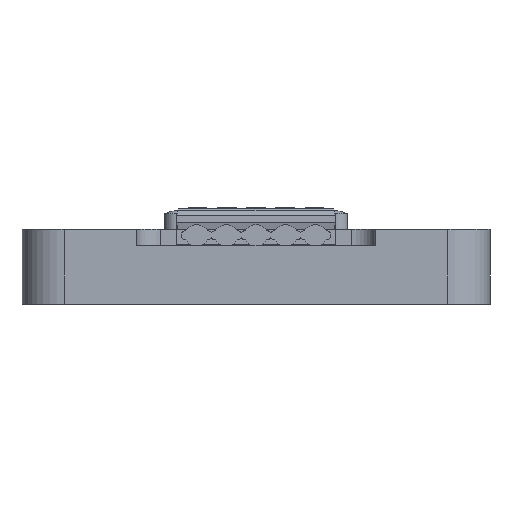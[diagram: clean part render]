
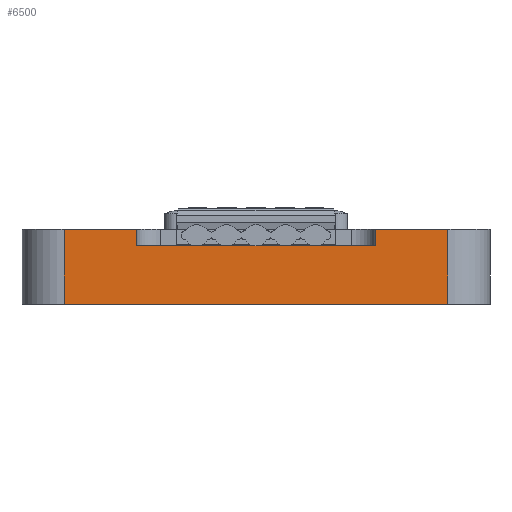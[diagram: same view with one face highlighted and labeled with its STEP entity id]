
A CAD part, front view. The second image highlights one B-rep face of the part: STEP entity #6500.
In plain terms, the highlighted planar face has unit normal (0, -1, 0) as drawn and (0, 0, 1) by its records, which use the part's own axes.
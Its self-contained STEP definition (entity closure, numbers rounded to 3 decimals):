
#2 = LINE ( 'NONE', #14894, #8336 ) ;
#54 = ORIENTED_EDGE ( 'NONE', *, *, #14577, .T. ) ;
#107 = EDGE_CURVE ( 'NONE', #11147, #3979, #9076, .T. ) ;
#176 = CARTESIAN_POINT ( 'NONE',  ( -8.2, 3.2, 10. ) ) ;
#637 = EDGE_CURVE ( 'NONE', #13129, #4361, #12235, .T. ) ;
#1287 = CARTESIAN_POINT ( 'NONE',  ( -5.1, 3.2, 10. ) ) ;
#1497 = DIRECTION ( 'NONE',  ( -1., 0., 0. ) ) ;
#1690 = CARTESIAN_POINT ( 'NONE',  ( -8.2, 0., 10. ) ) ;
#1975 = EDGE_CURVE ( 'NONE', #10636, #7824, #12589, .T. ) ;
#2287 = ORIENTED_EDGE ( 'NONE', *, *, #7016, .T. ) ;
#2341 = CARTESIAN_POINT ( 'NONE',  ( -10., 0., 10. ) ) ;
#2495 = DIRECTION ( 'NONE',  ( 1., 0., 0. ) ) ;
#2517 = DIRECTION ( 'NONE',  ( 0., 1., 0. ) ) ;
#3336 = VECTOR ( 'NONE', #6659, 1000. ) ;
#3337 = VECTOR ( 'NONE', #10662, 1000. ) ;
#3976 = ORIENTED_EDGE ( 'NONE', *, *, #4019, .F. ) ;
#3979 = VERTEX_POINT ( 'NONE', #1287 ) ;
#4019 = EDGE_CURVE ( 'NONE', #15739, #10636, #10272, .T. ) ;
#4361 = VERTEX_POINT ( 'NONE', #14646 ) ;
#4822 = CARTESIAN_POINT ( 'NONE',  ( -5.1, 2.5, 10. ) ) ;
#4942 = CARTESIAN_POINT ( 'NONE',  ( 5.1, 2.5, 10. ) ) ;
#5033 = LINE ( 'NONE', #14389, #8404 ) ;
#5159 = CARTESIAN_POINT ( 'NONE',  ( -10., 3.2, 10. ) ) ;
#5426 = DIRECTION ( 'NONE',  ( 0., 1., 0. ) ) ;
#5688 = LINE ( 'NONE', #13020, #3336 ) ;
#5697 = CARTESIAN_POINT ( 'NONE',  ( 8.2, 3.2, 10. ) ) ;
#5775 = DIRECTION ( 'NONE',  ( 1., 0., 0. ) ) ;
#6126 = CARTESIAN_POINT ( 'NONE',  ( -10., 3.2, 10. ) ) ;
#6414 = VERTEX_POINT ( 'NONE', #4822 ) ;
#6500 = ADVANCED_FACE ( 'NONE', ( #13889 ), #10357, .F. ) ;
#6659 = DIRECTION ( 'NONE',  ( 0., 1., 0. ) ) ;
#6696 = DIRECTION ( 'NONE',  ( 0., 0., -1. ) ) ;
#7012 = CARTESIAN_POINT ( 'NONE',  ( -8.2, 3.2, 10. ) ) ;
#7016 = EDGE_CURVE ( 'NONE', #11147, #13129, #14446, .T. ) ;
#7824 = VERTEX_POINT ( 'NONE', #5697 ) ;
#8336 = VECTOR ( 'NONE', #5775, 1000. ) ;
#8367 = EDGE_CURVE ( 'NONE', #6414, #3979, #5033, .T. ) ;
#8404 = VECTOR ( 'NONE', #5426, 1000. ) ;
#9058 = DIRECTION ( 'NONE',  ( 1., 0., 0. ) ) ;
#9076 = LINE ( 'NONE', #6126, #16224 ) ;
#9864 = DIRECTION ( 'NONE',  ( 1., 0., 0. ) ) ;
#10272 = LINE ( 'NONE', #4942, #13271 ) ;
#10357 = PLANE ( 'NONE',  #12598 ) ;
#10463 = CARTESIAN_POINT ( 'NONE',  ( -10., 3.2, 10. ) ) ;
#10585 = EDGE_LOOP ( 'NONE', ( #15347, #2287, #14572, #54, #14105, #3976, #16216, #12361 ) ) ;
#10636 = VERTEX_POINT ( 'NONE', #10950 ) ;
#10662 = DIRECTION ( 'NONE',  ( 0., -1., 0. ) ) ;
#10950 = CARTESIAN_POINT ( 'NONE',  ( 5.1, 3.2, 10. ) ) ;
#11147 = VERTEX_POINT ( 'NONE', #176 ) ;
#11519 = CARTESIAN_POINT ( 'NONE',  ( 5.1, 2.5, 10. ) ) ;
#12026 = VECTOR ( 'NONE', #9864, 1000. ) ;
#12235 = LINE ( 'NONE', #2341, #12026 ) ;
#12361 = ORIENTED_EDGE ( 'NONE', *, *, #8367, .T. ) ;
#12589 = LINE ( 'NONE', #5159, #13363 ) ;
#12598 = AXIS2_PLACEMENT_3D ( 'NONE', #10463, #6696, #1497 ) ;
#12648 = EDGE_CURVE ( 'NONE', #6414, #15739, #2, .T. ) ;
#13020 = CARTESIAN_POINT ( 'NONE',  ( 8.2, 3.2, 10. ) ) ;
#13129 = VERTEX_POINT ( 'NONE', #1690 ) ;
#13271 = VECTOR ( 'NONE', #2517, 1000. ) ;
#13363 = VECTOR ( 'NONE', #9058, 1000. ) ;
#13889 = FACE_OUTER_BOUND ( 'NONE', #10585, .T. ) ;
#14105 = ORIENTED_EDGE ( 'NONE', *, *, #1975, .F. ) ;
#14389 = CARTESIAN_POINT ( 'NONE',  ( -5.1, 2.5, 10. ) ) ;
#14446 = LINE ( 'NONE', #7012, #3337 ) ;
#14572 = ORIENTED_EDGE ( 'NONE', *, *, #637, .T. ) ;
#14577 = EDGE_CURVE ( 'NONE', #4361, #7824, #5688, .T. ) ;
#14646 = CARTESIAN_POINT ( 'NONE',  ( 8.2, 0., 10. ) ) ;
#14894 = CARTESIAN_POINT ( 'NONE',  ( -5.1, 2.5, 10. ) ) ;
#15347 = ORIENTED_EDGE ( 'NONE', *, *, #107, .F. ) ;
#15739 = VERTEX_POINT ( 'NONE', #11519 ) ;
#16216 = ORIENTED_EDGE ( 'NONE', *, *, #12648, .F. ) ;
#16224 = VECTOR ( 'NONE', #2495, 1000. ) ;
